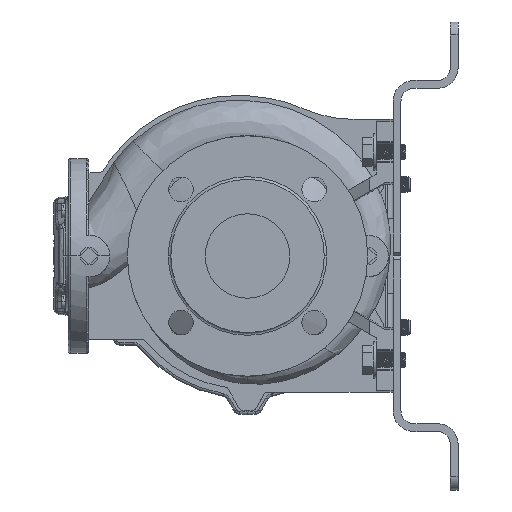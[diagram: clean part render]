
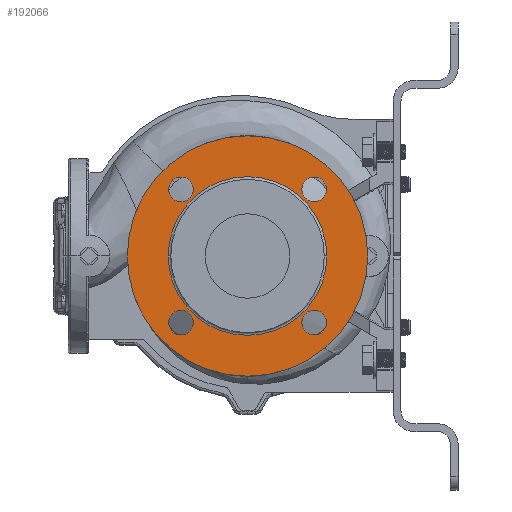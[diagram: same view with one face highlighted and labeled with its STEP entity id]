
A CAD part, left-side view. The second image highlights one B-rep face of the part: STEP entity #192066.
In plain terms, the highlighted planar face has unit normal (-1, 0, 0).
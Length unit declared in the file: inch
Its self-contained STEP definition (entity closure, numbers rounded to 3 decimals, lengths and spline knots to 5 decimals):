
#1747 = CARTESIAN_POINT ( 'NONE',  ( -9.52368, -2.03717, -0.22955 ) ) ;
#2429 = DIRECTION ( 'NONE',  ( 0., -1., 0. ) ) ;
#5034 = ORIENTED_EDGE ( 'NONE', *, *, #253374, .F. ) ;
#7141 = CARTESIAN_POINT ( 'NONE',  ( -9.52368, 1.99946, 3.80709 ) ) ;
#7236 = CARTESIAN_POINT ( 'NONE',  ( -9.52368, 2.75673, 1.78877 ) ) ;
#11502 = ORIENTED_EDGE ( 'NONE', *, *, #223729, .F. ) ;
#18284 = AXIS2_PLACEMENT_3D ( 'NONE', #105214, #286162, #219790 ) ;
#18492 = AXIS2_PLACEMENT_3D ( 'NONE', #283665, #277709, #46994 ) ;
#20952 = DIRECTION ( 'NONE',  ( 0., -1., 0. ) ) ;
#20987 = FACE_BOUND ( 'NONE', #265568, .T. ) ;
#21901 = DIRECTION ( 'NONE',  ( -1., 0., 0. ) ) ;
#23985 = FACE_OUTER_BOUND ( 'NONE', #278834, .T. ) ;
#28670 = DIRECTION ( 'NONE',  ( -1., 0., 0. ) ) ;
#35160 = CIRCLE ( 'NONE', #194051, 0.37402 ) ;
#36334 = EDGE_LOOP ( 'NONE', ( #53527, #156704 ) ) ;
#38970 = DIRECTION ( 'NONE',  ( -1., 0., 0. ) ) ;
#40123 = EDGE_CURVE ( 'NONE', #102679, #255528, #148389, .T. ) ;
#41631 = CARTESIAN_POINT ( 'NONE',  ( -9.52368, 2.37348, 3.80709 ) ) ;
#44550 = DIRECTION ( 'NONE',  ( -1., 0., 0. ) ) ;
#46994 = DIRECTION ( 'NONE',  ( 0., 1., 0. ) ) ;
#47390 = CIRCLE ( 'NONE', #18492, 0.37402 ) ;
#49153 = CARTESIAN_POINT ( 'NONE',  ( -9.52368, -1.66316, -0.22955 ) ) ;
#50496 = AXIS2_PLACEMENT_3D ( 'NONE', #49153, #251389, #228712 ) ;
#52735 = EDGE_CURVE ( 'NONE', #151756, #262210, #180508, .T. ) ;
#53527 = ORIENTED_EDGE ( 'NONE', *, *, #40123, .F. ) ;
#58598 = CARTESIAN_POINT ( 'NONE',  ( -9.52368, 0.35516, 1.78877 ) ) ;
#59647 = AXIS2_PLACEMENT_3D ( 'NONE', #41631, #21901, #181781 ) ;
#62370 = CARTESIAN_POINT ( 'NONE',  ( -9.52368, -1.28914, 3.80709 ) ) ;
#63443 = ORIENTED_EDGE ( 'NONE', *, *, #196920, .F. ) ;
#65633 = CARTESIAN_POINT ( 'NONE',  ( -9.52368, 2.37348, -0.22955 ) ) ;
#67793 = DIRECTION ( 'NONE',  ( 0., -1., 0. ) ) ;
#69732 = AXIS2_PLACEMENT_3D ( 'NONE', #65633, #44550, #181737 ) ;
#70493 = ORIENTED_EDGE ( 'NONE', *, *, #197811, .T. ) ;
#73049 = VERTEX_POINT ( 'NONE', #132946 ) ;
#73992 = VERTEX_POINT ( 'NONE', #263922 ) ;
#74283 = CIRCLE ( 'NONE', #59647, 0.37402 ) ;
#81346 = AXIS2_PLACEMENT_3D ( 'NONE', #58598, #108364, #221511 ) ;
#84177 = CARTESIAN_POINT ( 'NONE',  ( -9.52368, 2.37348, -0.22955 ) ) ;
#87424 = DIRECTION ( 'NONE',  ( -1., 0., 0. ) ) ;
#90530 = DIRECTION ( 'NONE',  ( 0., 0., -1. ) ) ;
#93676 = VERTEX_POINT ( 'NONE', #230462 ) ;
#100796 = AXIS2_PLACEMENT_3D ( 'NONE', #117176, #209054, #2429 ) ;
#102679 = VERTEX_POINT ( 'NONE', #179490 ) ;
#105214 = CARTESIAN_POINT ( 'NONE',  ( -9.52368, -1.66316, 3.80709 ) ) ;
#107759 = EDGE_LOOP ( 'NONE', ( #232701, #63443 ) ) ;
#108364 = DIRECTION ( 'NONE',  ( -1., 0., 0. ) ) ;
#109054 = EDGE_LOOP ( 'NONE', ( #222468, #5034 ) ) ;
#110084 = CARTESIAN_POINT ( 'NONE',  ( -9.52368, 2.37348, 3.80709 ) ) ;
#111163 = EDGE_CURVE ( 'NONE', #73992, #148795, #296052, .T. ) ;
#112421 = EDGE_LOOP ( 'NONE', ( #11502, #136423 ) ) ;
#113053 = FACE_BOUND ( 'NONE', #109054, .T. ) ;
#117176 = CARTESIAN_POINT ( 'NONE',  ( -9.52368, 0.35516, 1.78877 ) ) ;
#117813 = CIRCLE ( 'NONE', #209182, 2.40157 ) ;
#119214 = CARTESIAN_POINT ( 'NONE',  ( -9.52368, -1.66316, 3.80709 ) ) ;
#123521 = DIRECTION ( 'NONE',  ( 1., 0., 0. ) ) ;
#131076 = CIRCLE ( 'NONE', #261076, 0.37402 ) ;
#132946 = CARTESIAN_POINT ( 'NONE',  ( -9.52368, 2.74749, 3.80709 ) ) ;
#135780 = FACE_BOUND ( 'NONE', #112421, .T. ) ;
#136423 = ORIENTED_EDGE ( 'NONE', *, *, #293752, .F. ) ;
#147642 = DIRECTION ( 'NONE',  ( 0., 0., 1. ) ) ;
#148389 = CIRCLE ( 'NONE', #18284, 0.37402 ) ;
#148795 = VERTEX_POINT ( 'NONE', #263164 ) ;
#149052 = CIRCLE ( 'NONE', #100796, 3.64173 ) ;
#151050 = ORIENTED_EDGE ( 'NONE', *, *, #293375, .F. ) ;
#151756 = VERTEX_POINT ( 'NONE', #1747 ) ;
#156704 = ORIENTED_EDGE ( 'NONE', *, *, #183513, .F. ) ;
#161926 = VERTEX_POINT ( 'NONE', #282996 ) ;
#166330 = VERTEX_POINT ( 'NONE', #216965 ) ;
#172481 = AXIS2_PLACEMENT_3D ( 'NONE', #119214, #229339, #90530 ) ;
#172778 = CIRCLE ( 'NONE', #81346, 2.40157 ) ;
#179037 = CARTESIAN_POINT ( 'NONE',  ( -9.52368, -1.28914, -0.22955 ) ) ;
#179490 = CARTESIAN_POINT ( 'NONE',  ( -9.52368, -2.03717, 3.80709 ) ) ;
#180508 = CIRCLE ( 'NONE', #50496, 0.37402 ) ;
#181737 = DIRECTION ( 'NONE',  ( 0., 0., 1. ) ) ;
#181781 = DIRECTION ( 'NONE',  ( 0., -1., 0. ) ) ;
#183513 = EDGE_CURVE ( 'NONE', #255528, #102679, #293135, .T. ) ;
#183815 = DIRECTION ( 'NONE',  ( -1., 0., 0. ) ) ;
#185721 = CARTESIAN_POINT ( 'NONE',  ( -9.52368, -3.28657, 1.78877 ) ) ;
#189681 = VERTEX_POINT ( 'NONE', #7141 ) ;
#192066 = ADVANCED_FACE ( 'NONE', ( #209418, #230716, #20987, #135780, #113053, #23985 ), #232194, .F. ) ;
#194051 = AXIS2_PLACEMENT_3D ( 'NONE', #84177, #38970, #147642 ) ;
#196920 = EDGE_CURVE ( 'NONE', #262210, #151756, #47390, .T. ) ;
#197811 = EDGE_CURVE ( 'NONE', #166330, #257326, #149052, .T. ) ;
#200076 = AXIS2_PLACEMENT_3D ( 'NONE', #7236, #123521, #260729 ) ;
#209054 = DIRECTION ( 'NONE',  ( -1., 0., 0. ) ) ;
#209182 = AXIS2_PLACEMENT_3D ( 'NONE', #274423, #87424, #67793 ) ;
#209418 = FACE_BOUND ( 'NONE', #36334, .T. ) ;
#216079 = CIRCLE ( 'NONE', #274083, 3.64173 ) ;
#216965 = CARTESIAN_POINT ( 'NONE',  ( -9.52368, 3.99689, 1.78877 ) ) ;
#219790 = DIRECTION ( 'NONE',  ( 0., 0., -1. ) ) ;
#221511 = DIRECTION ( 'NONE',  ( 0., -1., 0. ) ) ;
#222468 = ORIENTED_EDGE ( 'NONE', *, *, #288783, .F. ) ;
#223729 = EDGE_CURVE ( 'NONE', #189681, #73049, #74283, .T. ) ;
#228712 = DIRECTION ( 'NONE',  ( 0., 1., 0. ) ) ;
#229339 = DIRECTION ( 'NONE',  ( -1., 0., 0. ) ) ;
#230462 = CARTESIAN_POINT ( 'NONE',  ( -9.52368, -2.04642, 1.78877 ) ) ;
#230716 = FACE_BOUND ( 'NONE', #107759, .T. ) ;
#232194 = PLANE ( 'NONE',  #200076 ) ;
#232701 = ORIENTED_EDGE ( 'NONE', *, *, #52735, .F. ) ;
#251389 = DIRECTION ( 'NONE',  ( -1., 0., 0. ) ) ;
#253374 = EDGE_CURVE ( 'NONE', #161926, #93676, #117813, .T. ) ;
#253382 = ORIENTED_EDGE ( 'NONE', *, *, #281143, .T. ) ;
#255528 = VERTEX_POINT ( 'NONE', #62370 ) ;
#257326 = VERTEX_POINT ( 'NONE', #185721 ) ;
#260729 = DIRECTION ( 'NONE',  ( 0., 1., 0. ) ) ;
#261076 = AXIS2_PLACEMENT_3D ( 'NONE', #110084, #183815, #20952 ) ;
#262210 = VERTEX_POINT ( 'NONE', #179037 ) ;
#263164 = CARTESIAN_POINT ( 'NONE',  ( -9.52368, 1.99946, -0.22955 ) ) ;
#263922 = CARTESIAN_POINT ( 'NONE',  ( -9.52368, 2.74749, -0.22955 ) ) ;
#265568 = EDGE_LOOP ( 'NONE', ( #151050, #279913 ) ) ;
#274083 = AXIS2_PLACEMENT_3D ( 'NONE', #279051, #28670, #284993 ) ;
#274423 = CARTESIAN_POINT ( 'NONE',  ( -9.52368, 0.35516, 1.78877 ) ) ;
#277709 = DIRECTION ( 'NONE',  ( -1., 0., 0. ) ) ;
#278834 = EDGE_LOOP ( 'NONE', ( #253382, #70493 ) ) ;
#279051 = CARTESIAN_POINT ( 'NONE',  ( -9.52368, 0.35516, 1.78877 ) ) ;
#279913 = ORIENTED_EDGE ( 'NONE', *, *, #111163, .F. ) ;
#281143 = EDGE_CURVE ( 'NONE', #257326, #166330, #216079, .T. ) ;
#282996 = CARTESIAN_POINT ( 'NONE',  ( -9.52368, 2.75673, 1.78877 ) ) ;
#283665 = CARTESIAN_POINT ( 'NONE',  ( -9.52368, -1.66316, -0.22955 ) ) ;
#284993 = DIRECTION ( 'NONE',  ( 0., -1., 0. ) ) ;
#286162 = DIRECTION ( 'NONE',  ( -1., 0., 0. ) ) ;
#288783 = EDGE_CURVE ( 'NONE', #93676, #161926, #172778, .T. ) ;
#293135 = CIRCLE ( 'NONE', #172481, 0.37402 ) ;
#293375 = EDGE_CURVE ( 'NONE', #148795, #73992, #35160, .T. ) ;
#293752 = EDGE_CURVE ( 'NONE', #73049, #189681, #131076, .T. ) ;
#296052 = CIRCLE ( 'NONE', #69732, 0.37402 ) ;
